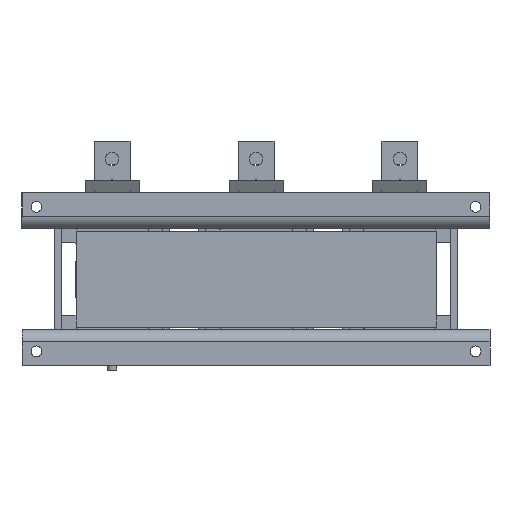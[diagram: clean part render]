
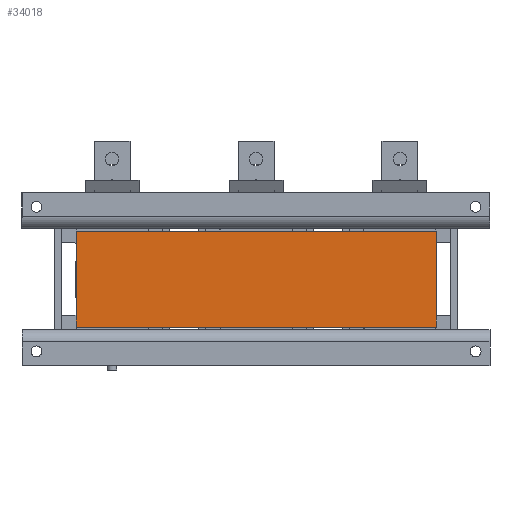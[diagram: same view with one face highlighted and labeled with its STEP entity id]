
A CAD part, front view. The second image highlights one B-rep face of the part: STEP entity #34018.
In plain terms, the highlighted planar face has unit normal (0, -1, 0).
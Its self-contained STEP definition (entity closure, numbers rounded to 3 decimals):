
#730=LINE('',#48561,#4057);
#979=LINE('',#49482,#4306);
#980=LINE('',#49483,#4307);
#981=LINE('',#49484,#4308);
#4057=VECTOR('',#39335,10.);
#4306=VECTOR('',#40094,10.);
#4307=VECTOR('',#40095,10.);
#4308=VECTOR('',#40096,10.);
#7413=PLANE('',#36227);
#9275=FACE_OUTER_BOUND('',#11291,.T.);
#11291=EDGE_LOOP('',(#23423,#23424,#23425,#23426));
#14562=VERTEX_POINT('',#48558);
#14563=VERTEX_POINT('',#48560);
#14871=VERTEX_POINT('',#49480);
#14872=VERTEX_POINT('',#49481);
#17823=EDGE_CURVE('',#14563,#14562,#730,.T.);
#18231=EDGE_CURVE('',#14871,#14872,#979,.T.);
#18232=EDGE_CURVE('',#14563,#14871,#980,.T.);
#18233=EDGE_CURVE('',#14872,#14562,#981,.T.);
#23423=ORIENTED_EDGE('',*,*,#18231,.F.);
#23424=ORIENTED_EDGE('',*,*,#18232,.F.);
#23425=ORIENTED_EDGE('',*,*,#17823,.T.);
#23426=ORIENTED_EDGE('',*,*,#18233,.F.);
#34018=ADVANCED_FACE('',(#9275),#7413,.T.);
#36227=AXIS2_PLACEMENT_3D('',#49479,#40092,#40093);
#39335=DIRECTION('',(0.,0.,1.));
#40092=DIRECTION('center_axis',(0.,-1.,0.));
#40093=DIRECTION('ref_axis',(1.,0.,0.));
#40094=DIRECTION('',(0.,0.,1.));
#40095=DIRECTION('',(-1.,0.,0.));
#40096=DIRECTION('',(1.,0.,0.));
#48558=CARTESIAN_POINT('',(150.,-185.2,40.));
#48560=CARTESIAN_POINT('',(150.,-185.2,-40.));
#48561=CARTESIAN_POINT('',(150.,-185.2,0.));
#49479=CARTESIAN_POINT('Origin',(-150.,-185.2,0.));
#49480=CARTESIAN_POINT('',(-150.,-185.2,-40.));
#49481=CARTESIAN_POINT('',(-150.,-185.2,40.));
#49482=CARTESIAN_POINT('',(-150.,-185.2,0.));
#49483=CARTESIAN_POINT('',(-150.,-185.2,-40.));
#49484=CARTESIAN_POINT('',(-150.,-185.2,40.));
